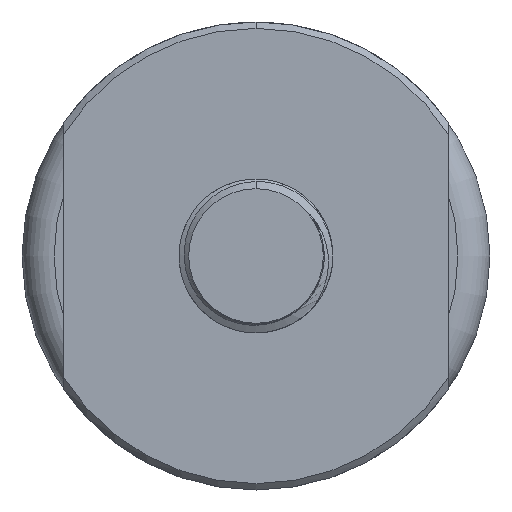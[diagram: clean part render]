
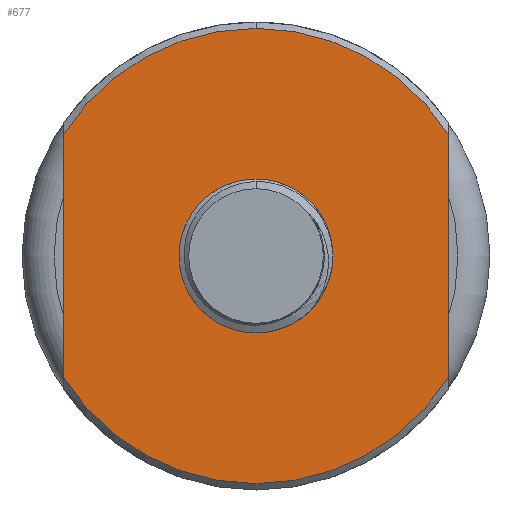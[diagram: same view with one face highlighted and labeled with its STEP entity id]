
A CAD part, front view. The second image highlights one B-rep face of the part: STEP entity #677.
In plain terms, the highlighted planar face has unit normal (0, -1, 0).
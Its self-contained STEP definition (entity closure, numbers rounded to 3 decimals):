
#163 = AXIS2_PLACEMENT_3D ( 'NONE', #6057, #4144, #546 ) ;
#229 = ORIENTED_EDGE ( 'NONE', *, *, #5300, .T. ) ;
#291 = EDGE_CURVE ( 'NONE', #595, #2534, #362, .T. ) ;
#362 = LINE ( 'NONE', #6394, #3600 ) ;
#526 = CARTESIAN_POINT ( 'NONE',  ( 0., 0., 0. ) ) ;
#546 = DIRECTION ( 'NONE',  ( 0., 0., -1. ) ) ;
#587 = DIRECTION ( 'NONE',  ( 0., 0., 1. ) ) ;
#595 = VERTEX_POINT ( 'NONE', #7384 ) ;
#677 = ADVANCED_FACE ( 'NONE', ( #5144, #2125 ), #5024, .T. ) ;
#679 = CARTESIAN_POINT ( 'NONE',  ( 0., 0., 0. ) ) ;
#728 = VERTEX_POINT ( 'NONE', #4426 ) ;
#839 = DIRECTION ( 'NONE',  ( 0., 0., -1. ) ) ;
#1083 = CARTESIAN_POINT ( 'NONE',  ( 0., 0., 0. ) ) ;
#1142 = VECTOR ( 'NONE', #587, 1000. ) ;
#1199 = AXIS2_PLACEMENT_3D ( 'NONE', #2733, #6940, #7022 ) ;
#1331 = ORIENTED_EDGE ( 'NONE', *, *, #6178, .F. ) ;
#1344 = EDGE_CURVE ( 'NONE', #3358, #4876, #2039, .T. ) ;
#1963 = CARTESIAN_POINT ( 'NONE',  ( 0., 0., -71. ) ) ;
#2039 = CIRCLE ( 'NONE', #7043, 71. ) ;
#2125 = FACE_BOUND ( 'NONE', #4070, .T. ) ;
#2358 = AXIS2_PLACEMENT_3D ( 'NONE', #526, #3633, #4244 ) ;
#2436 = CARTESIAN_POINT ( 'NONE',  ( -60., 0., -73. ) ) ;
#2442 = EDGE_CURVE ( 'NONE', #4419, #4876, #3724, .T. ) ;
#2534 = VERTEX_POINT ( 'NONE', #4818 ) ;
#2611 = CIRCLE ( 'NONE', #1199, 24. ) ;
#2733 = CARTESIAN_POINT ( 'NONE',  ( 0., 0., 0. ) ) ;
#2836 = CIRCLE ( 'NONE', #163, 24. ) ;
#2942 = AXIS2_PLACEMENT_3D ( 'NONE', #1963, #7459, #839 ) ;
#3070 = VERTEX_POINT ( 'NONE', #5343 ) ;
#3293 = EDGE_CURVE ( 'NONE', #4419, #595, #7295, .T. ) ;
#3358 = VERTEX_POINT ( 'NONE', #7911 ) ;
#3600 = VECTOR ( 'NONE', #7541, 1000. ) ;
#3633 = DIRECTION ( 'NONE',  ( 0., -1., 0. ) ) ;
#3724 = LINE ( 'NONE', #2436, #1142 ) ;
#3837 = AXIS2_PLACEMENT_3D ( 'NONE', #679, #6750, #7383 ) ;
#4070 = EDGE_LOOP ( 'NONE', ( #7199, #1331 ) ) ;
#4114 = DIRECTION ( 'NONE',  ( 0., -1., 0. ) ) ;
#4144 = DIRECTION ( 'NONE',  ( 0., -1., 0. ) ) ;
#4244 = DIRECTION ( 'NONE',  ( 0., 0., -1. ) ) ;
#4419 = VERTEX_POINT ( 'NONE', #6576 ) ;
#4426 = CARTESIAN_POINT ( 'NONE',  ( -23.701, 0., 3.778 ) ) ;
#4818 = CARTESIAN_POINT ( 'NONE',  ( 60., 0., 37.961 ) ) ;
#4876 = VERTEX_POINT ( 'NONE', #6314 ) ;
#5024 = PLANE ( 'NONE',  #2942 ) ;
#5144 = FACE_OUTER_BOUND ( 'NONE', #7126, .T. ) ;
#5300 = EDGE_CURVE ( 'NONE', #2534, #3358, #6200, .T. ) ;
#5343 = CARTESIAN_POINT ( 'NONE',  ( -19.4, 0., -14.129 ) ) ;
#5843 = ORIENTED_EDGE ( 'NONE', *, *, #1344, .T. ) ;
#5869 = DIRECTION ( 'NONE',  ( 0., 0., -1. ) ) ;
#6057 = CARTESIAN_POINT ( 'NONE',  ( 0., 0., 0. ) ) ;
#6077 = ORIENTED_EDGE ( 'NONE', *, *, #3293, .T. ) ;
#6114 = ORIENTED_EDGE ( 'NONE', *, *, #2442, .F. ) ;
#6178 = EDGE_CURVE ( 'NONE', #3070, #728, #2611, .T. ) ;
#6180 = ORIENTED_EDGE ( 'NONE', *, *, #291, .T. ) ;
#6200 = CIRCLE ( 'NONE', #2358, 71. ) ;
#6314 = CARTESIAN_POINT ( 'NONE',  ( -60., 0., 37.961 ) ) ;
#6394 = CARTESIAN_POINT ( 'NONE',  ( 60., 0., -73. ) ) ;
#6576 = CARTESIAN_POINT ( 'NONE',  ( -60., 0., -37.961 ) ) ;
#6750 = DIRECTION ( 'NONE',  ( 0., -1., 0. ) ) ;
#6940 = DIRECTION ( 'NONE',  ( 0., -1., 0. ) ) ;
#7022 = DIRECTION ( 'NONE',  ( 0., 0., -1. ) ) ;
#7043 = AXIS2_PLACEMENT_3D ( 'NONE', #1083, #4114, #5869 ) ;
#7126 = EDGE_LOOP ( 'NONE', ( #6114, #6077, #6180, #229, #5843 ) ) ;
#7199 = ORIENTED_EDGE ( 'NONE', *, *, #7880, .F. ) ;
#7295 = CIRCLE ( 'NONE', #3837, 71. ) ;
#7383 = DIRECTION ( 'NONE',  ( 0., 0., -1. ) ) ;
#7384 = CARTESIAN_POINT ( 'NONE',  ( 60., 0., -37.961 ) ) ;
#7459 = DIRECTION ( 'NONE',  ( 0., -1., 0. ) ) ;
#7541 = DIRECTION ( 'NONE',  ( 0., 0., 1. ) ) ;
#7880 = EDGE_CURVE ( 'NONE', #728, #3070, #2836, .T. ) ;
#7911 = CARTESIAN_POINT ( 'NONE',  ( 0., 0., 71. ) ) ;
